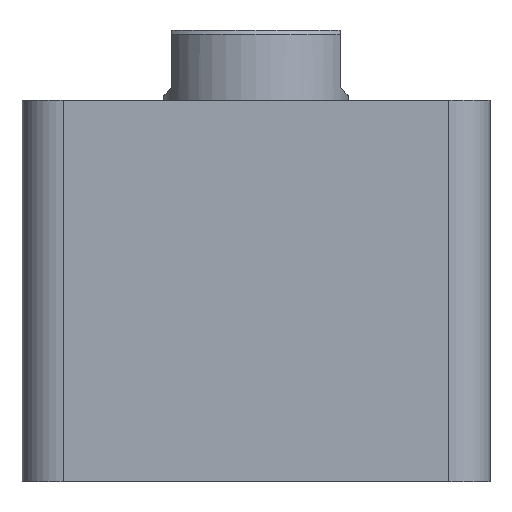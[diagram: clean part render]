
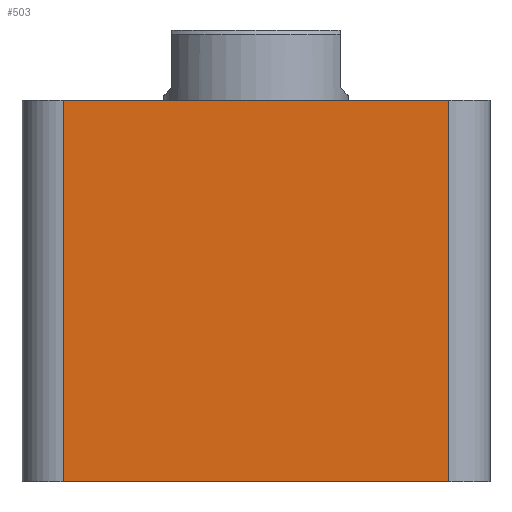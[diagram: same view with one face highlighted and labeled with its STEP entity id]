
A CAD part, front view. The second image highlights one B-rep face of the part: STEP entity #503.
In plain terms, the highlighted planar face has unit normal (0, -1, 0).
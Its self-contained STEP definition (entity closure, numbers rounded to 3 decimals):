
#46 = ORIENTED_EDGE ( 'NONE', *, *, #1364, .T. ) ;
#47 = ORIENTED_EDGE ( 'NONE', *, *, #1365, .T. ) ;
#48 = ORIENTED_EDGE ( 'NONE', *, *, #1366, .F. ) ;
#49 = ORIENTED_EDGE ( 'NONE', *, *, #1367, .T. ) ;
#503 = ADVANCED_FACE ( 'NONE', ( #2388 ), #1446, .F. ) ;
#665 = LINE ( 'NONE', #1039, #669 ) ;
#669 = VECTOR ( 'NONE', #1040, 1000. ) ;
#670 = LINE ( 'NONE', #1042, #674 ) ;
#671 = LINE ( 'NONE', #1018, #672 ) ;
#672 = VECTOR ( 'NONE', #1041, 1000. ) ;
#673 = LINE ( 'NONE', #1044, #676 ) ;
#674 = VECTOR ( 'NONE', #1043, 1000. ) ;
#676 = VECTOR ( 'NONE', #1045, 1000. ) ;
#1018 = CARTESIAN_POINT ( 'NONE',  ( 47., -57., 93. ) ) ;
#1039 = CARTESIAN_POINT ( 'NONE',  ( -57., -57., 0. ) ) ;
#1040 = DIRECTION ( 'NONE',  ( 1., 0., 0. ) ) ;
#1041 = DIRECTION ( 'NONE',  ( 0., 0., 1. ) ) ;
#1042 = CARTESIAN_POINT ( 'NONE',  ( -57., -57., 93. ) ) ;
#1043 = DIRECTION ( 'NONE',  ( 1., 0., 0. ) ) ;
#1044 = CARTESIAN_POINT ( 'NONE',  ( -47., -57., 93. ) ) ;
#1045 = DIRECTION ( 'NONE',  ( 0., 0., -1. ) ) ;
#1109 = CARTESIAN_POINT ( 'NONE',  ( 47., -57., 93. ) ) ;
#1118 = CARTESIAN_POINT ( 'NONE',  ( -47., -57., 93. ) ) ;
#1123 = CARTESIAN_POINT ( 'NONE',  ( 47., -57., 0. ) ) ;
#1129 = CARTESIAN_POINT ( 'NONE',  ( -47., -57., 0. ) ) ;
#1364 = EDGE_CURVE ( 'NONE', #1685, #1676, #665, .T. ) ;
#1365 = EDGE_CURVE ( 'NONE', #1676, #1674, #671, .T. ) ;
#1366 = EDGE_CURVE ( 'NONE', #1675, #1674, #670, .T. ) ;
#1367 = EDGE_CURVE ( 'NONE', #1675, #1685, #673, .T. ) ;
#1440 = CARTESIAN_POINT ( 'NONE',  ( -57., -57., 93. ) ) ;
#1446 = PLANE ( 'NONE',  #2087 ) ;
#1447 = DIRECTION ( 'NONE',  ( 0., 1., 0. ) ) ;
#1448 = DIRECTION ( 'NONE',  ( 0., 0., 1. ) ) ;
#1674 = VERTEX_POINT ( 'NONE', #1109 ) ;
#1675 = VERTEX_POINT ( 'NONE', #1118 ) ;
#1676 = VERTEX_POINT ( 'NONE', #1123 ) ;
#1685 = VERTEX_POINT ( 'NONE', #1129 ) ;
#2087 = AXIS2_PLACEMENT_3D ( 'NONE', #1440, #1447, #1448 ) ;
#2388 = FACE_OUTER_BOUND ( 'NONE', #2600, .T. ) ;
#2600 = EDGE_LOOP ( 'NONE', ( #46, #47, #48, #49 ) ) ;
